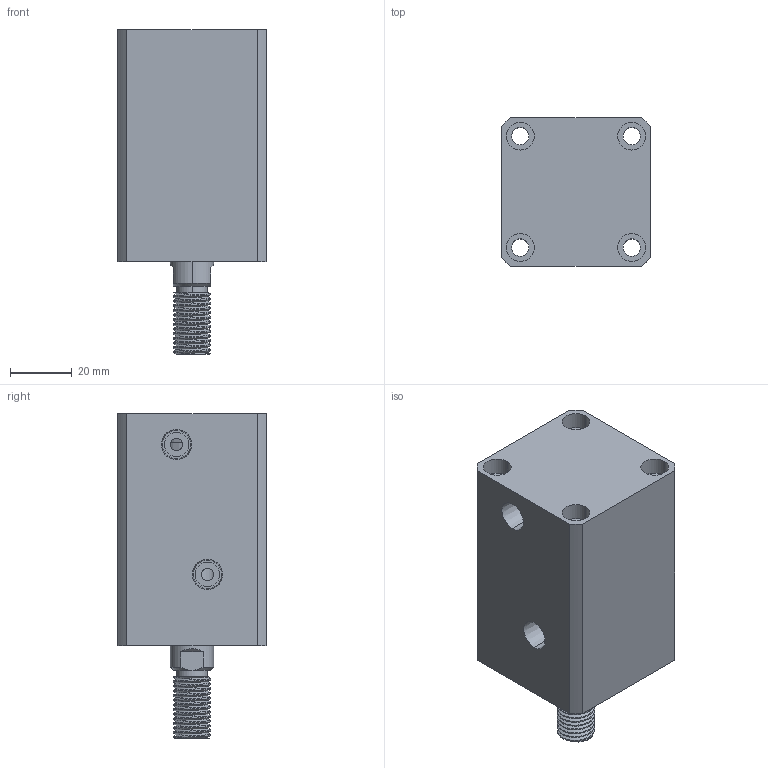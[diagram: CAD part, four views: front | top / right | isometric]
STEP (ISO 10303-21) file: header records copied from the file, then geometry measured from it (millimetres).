
FILE_DESCRIPTION (( 'STEP AP214' ), '1' );
FILE_NAME ('chtb-sd25x30w_asm.STEP', '2018-05-22T09:24:29', ( 'Windows' ), ( 'Microsoft' ), 'SwSTEP 2.0', 'SolidWorks 2015', '' );
FILE_SCHEMA (( 'AUTOMOTIVE_DESIGN' ));
Length unit declared in the file: millimetre
Products named in the file (4): chtb-sd25x30w_asm; CHTB-SD25X30WHSG; CHTB-SD25X30NBT; CHTB-25QG
Assembly tree (3 placements, depth 2):
  chtb-sd25x30w_asm
    CHTB-25QG
    CHTB-SD25X30NBT
    CHTB-SD25X30WHSG
Bounding box: 48 x 48 x 105 mm (x, y, z)
Volume: 153663.8 mm3; surface area: 41680.1 mm2
Topology: 3 solids, 3 shells, 178 faces, 474 edges, 323 vertices
Faces by surface type: cylinder 113, plane 39, cone 14, bspline 12
Entity records: 10610 total; most frequent: CARTESIAN_POINT 6273, ORIENTED_EDGE 940, DIRECTION 778, EDGE_CURVE 470, VERTEX_POINT 323, AXIS2_PLACEMENT_3D 317, EDGE_LOOP 217, ADVANCED_FACE 178
